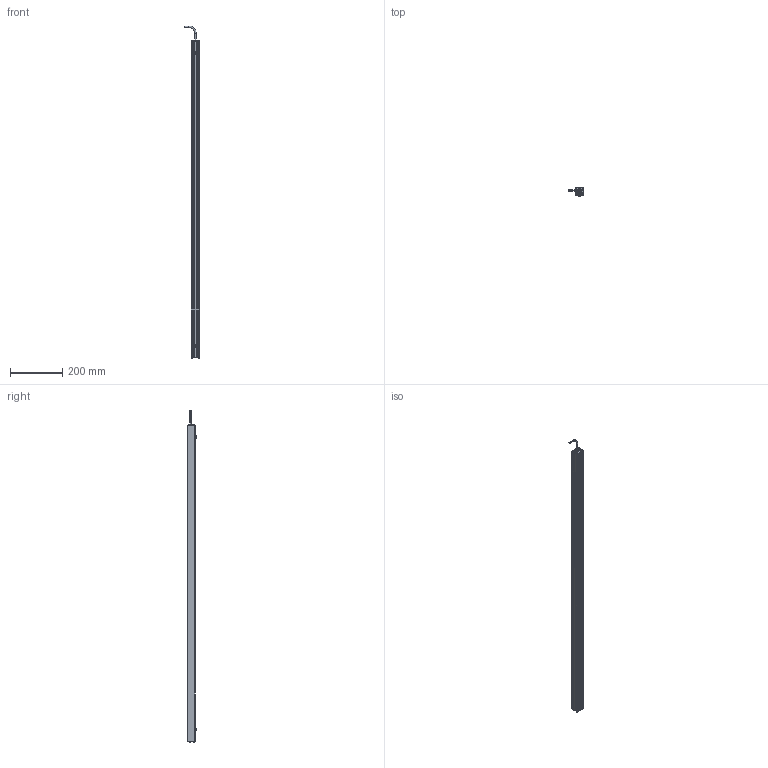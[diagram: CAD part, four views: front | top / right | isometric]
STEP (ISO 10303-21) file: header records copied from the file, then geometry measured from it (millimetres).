
FILE_DESCRIPTION (( 'STEP AP214' ), '1' );
FILE_NAME ('AL150XXXX_AL150276.stp', '2021-04-29T15:41:34', ( '' ), ( '' ), 'SwSTEP 2.0', 'SolidWorks 2018', '' );
FILE_SCHEMA (( 'AUTOMOTIVE_DESIGN' ));
Length unit declared in the file: inch
Products named in the file (12): CHM6x8_91460A312; Part1^AL150XXXX; AL150XXXX_AL150276; 093145_93701A253; 116-02-006; 116-02-007; 150-01-005-XXX_150-01-005-276; 092408_TRUNCATED; HN-M6_90592A016; Part2^AL150XXXX; 150-03-006-XXXX_150-03-006-276; 1157 (no strap)
Assembly tree (18 placements, depth 2):
  Part1^AL150XXXX
  AL150XXXX_AL150276
    150-01-005-XXX_150-01-005-276
    116-02-006
    093145_93701A253  x8
    HN-M6_90592A016  x2
    CHM6x8_91460A312  x2
    150-03-006-XXXX_150-03-006-276
    116-02-007
    1157 (no strap)
    092408_TRUNCATED
  Part2^AL150XXXX
Bounding box: 60.68 x 33.84 x 1267.51 mm (x, y, z)
Volume: 376405 mm3; surface area: 398814.1 mm2
Topology: 26 solids, 26 shells, 1306 faces, 3436 edges, 2127 vertices
Faces by surface type: cylinder 805, cone 249, plane 153, torus 59, bspline 32, sphere 8
Entity records: 18285 total; most frequent: CARTESIAN_POINT 6069, ORIENTED_EDGE 2496, DIRECTION 2311, EDGE_CURVE 1248, AXIS2_PLACEMENT_3D 881, VERTEX_POINT 800, LINE 549, VECTOR 549
